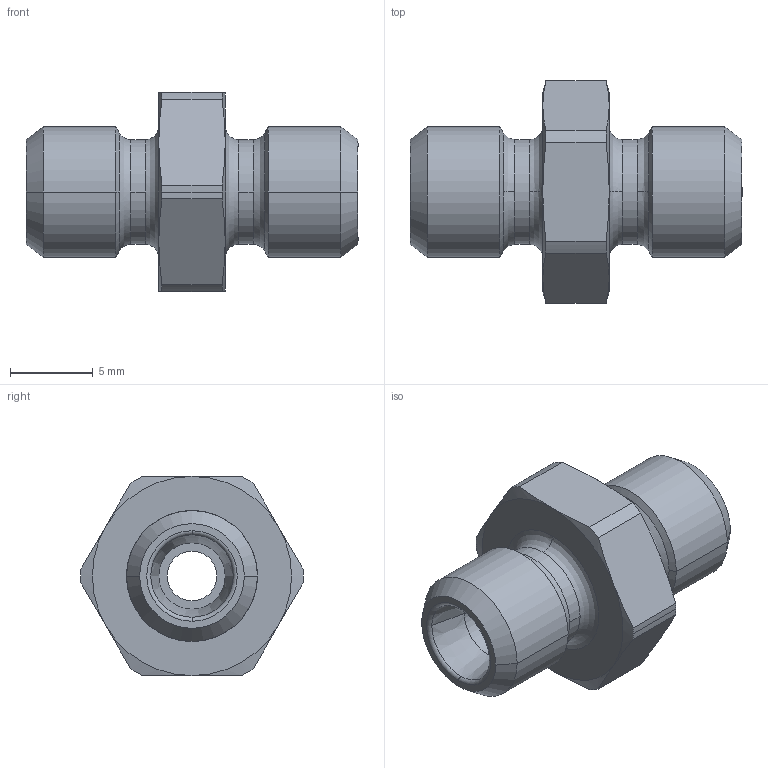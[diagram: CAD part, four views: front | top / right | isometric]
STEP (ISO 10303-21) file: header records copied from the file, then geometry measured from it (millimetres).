
FILE_DESCRIPTION((''),'2;1');
FILE_NAME('103501.stp','2007-10-31T11:35:23',(''),(''),'AutoCAD STEP 2000i','AutoCAD 2000i',', , ');
FILE_SCHEMA(('CONFIG_CONTROL_DESIGN'));
Length unit declared in the file: millimetre
Products named in the file (2): 103501.0; CHIAVE SMUSSATA#0
Assembly tree (1 placements, depth 2):
  103501.0
    CHIAVE SMUSSATA#0
Bounding box: 20 x 13.4 x 12 mm (x, y, z)
Volume: 974.4 mm3; surface area: 982.3 mm2
Topology: 1 solids, 1 shells, 70 faces, 172 edges, 108 vertices
Faces by surface type: cone 24, cylinder 22, plane 12, bspline 8, torus 4
Entity records: 2513 total; most frequent: CARTESIAN_POINT 752, DIRECTION 384, ORIENTED_EDGE 344, AXIS2_PLACEMENT_3D 172, EDGE_CURVE 172, VERTEX_POINT 108, CIRCLE 108, EDGE_LOOP 76
